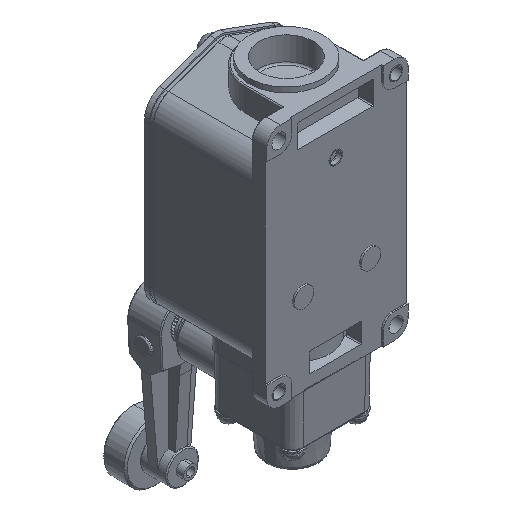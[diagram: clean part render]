
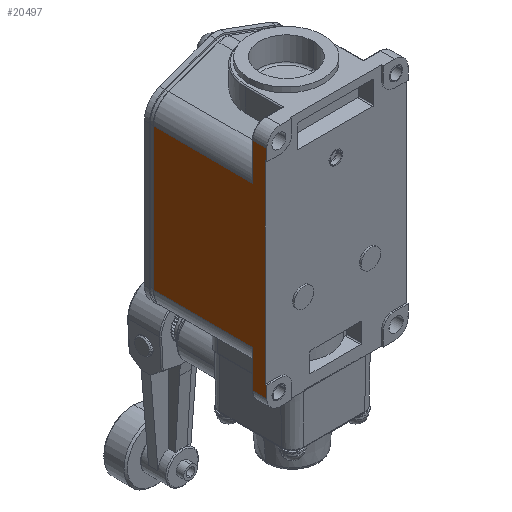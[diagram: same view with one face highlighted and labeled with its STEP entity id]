
A CAD part, isometric view. The second image highlights one B-rep face of the part: STEP entity #20497.
In plain terms, the highlighted planar face has unit normal (-1, 0, 0).
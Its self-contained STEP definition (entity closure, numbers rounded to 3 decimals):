
#5327=DIRECTION('',(0.,1.,0.));
#5328=VECTOR('',#5327,0.5);
#5329=CARTESIAN_POINT('',(0.,0.,-9.));
#5330=LINE('',#5329,#5328);
#5331=DIRECTION('',(0.,0.,-1.));
#5332=VECTOR('',#5331,57.8);
#5333=CARTESIAN_POINT('',(0.,0.5,-9.));
#5334=LINE('',#5333,#5332);
#5335=DIRECTION('',(0.,0.,-1.));
#5336=VECTOR('',#5335,11.16);
#5337=CARTESIAN_POINT('',(0.,4.2,-59.14));
#5338=LINE('',#5337,#5336);
#5518=DIRECTION('',(0.,0.,-1.));
#5519=VECTOR('',#5518,42.479);
#5520=CARTESIAN_POINT('',(0.,34.,-16.66));
#5521=LINE('',#5520,#5519);
#5755=DIRECTION('',(0.,0.,-1.));
#5756=VECTOR('',#5755,11.16);
#5757=CARTESIAN_POINT('',(0.,4.2,-5.5));
#5758=LINE('',#5757,#5756);
#5766=DIRECTION('',(0.,1.,0.));
#5767=VECTOR('',#5766,29.8);
#5768=CARTESIAN_POINT('',(0.,4.2,-16.66));
#5769=LINE('',#5768,#5767);
#5882=DIRECTION('',(0.,0.,1.));
#5883=VECTOR('',#5882,3.5);
#5884=CARTESIAN_POINT('',(0.,0.,-9.));
#5885=LINE('',#5884,#5883);
#5906=DIRECTION('',(0.,1.,0.));
#5907=VECTOR('',#5906,4.2);
#5908=CARTESIAN_POINT('',(0.,0.,-5.5));
#5909=LINE('',#5908,#5907);
#6064=DIRECTION('',(0.,-1.,0.));
#6065=VECTOR('',#6064,29.8);
#6066=CARTESIAN_POINT('',(0.,34.,-59.14));
#6067=LINE('',#6066,#6065);
#7329=DIRECTION('',(0.,0.,1.));
#7330=VECTOR('',#7329,3.5);
#7331=CARTESIAN_POINT('',(0.,0.,-70.3));
#7332=LINE('',#7331,#7330);
#7365=DIRECTION('',(0.,1.,0.));
#7366=VECTOR('',#7365,0.5);
#7367=CARTESIAN_POINT('',(0.,0.,-66.8));
#7368=LINE('',#7367,#7366);
#7390=DIRECTION('',(0.,-1.,0.));
#7391=VECTOR('',#7390,4.2);
#7392=CARTESIAN_POINT('',(0.,4.2,-70.3));
#7393=LINE('',#7392,#7391);
#9314=CARTESIAN_POINT('',(0.,0.5,-9.));
#9316=VERTEX_POINT('',#9314);
#9343=CARTESIAN_POINT('',(0.,0.5,-66.8));
#9344=VERTEX_POINT('',#9343);
#9389=CARTESIAN_POINT('',(0.,0.,-9.));
#9390=VERTEX_POINT('',#9389);
#9391=CARTESIAN_POINT('',(0.,4.2,-59.14));
#9392=CARTESIAN_POINT('',(0.,4.2,-70.3));
#9393=VERTEX_POINT('',#9391);
#9394=VERTEX_POINT('',#9392);
#9395=CARTESIAN_POINT('',(0.,4.2,-5.5));
#9396=CARTESIAN_POINT('',(0.,4.2,-16.66));
#9397=VERTEX_POINT('',#9395);
#9398=VERTEX_POINT('',#9396);
#9399=CARTESIAN_POINT('',(0.,0.,-5.5));
#9400=VERTEX_POINT('',#9399);
#9401=CARTESIAN_POINT('',(0.,0.,-66.8));
#9402=VERTEX_POINT('',#9401);
#9488=CARTESIAN_POINT('',(0.,0.,-70.3));
#9489=VERTEX_POINT('',#9488);
#9566=CARTESIAN_POINT('',(0.,34.,-16.66));
#9567=VERTEX_POINT('',#9566);
#9568=CARTESIAN_POINT('',(0.,34.,-59.14));
#9569=VERTEX_POINT('',#9568);
#20468=CARTESIAN_POINT('',(0.,17.,-37.9));
#20469=DIRECTION('',(1.,0.,0.));
#20470=DIRECTION('',(0.,0.,1.));
#20471=AXIS2_PLACEMENT_3D('',#20468,#20469,#20470);
#20472=PLANE('',#20471);
#20474=ORIENTED_EDGE('',*,*,#20473,.F.);
#20476=ORIENTED_EDGE('',*,*,#20475,.F.);
#20478=ORIENTED_EDGE('',*,*,#20477,.F.);
#20480=ORIENTED_EDGE('',*,*,#20479,.F.);
#20482=ORIENTED_EDGE('',*,*,#20481,.F.);
#20484=ORIENTED_EDGE('',*,*,#20483,.F.);
#20486=ORIENTED_EDGE('',*,*,#20485,.F.);
#20487=ORIENTED_EDGE('',*,*,#20452,.T.);
#20488=ORIENTED_EDGE('',*,*,#20380,.T.);
#20490=ORIENTED_EDGE('',*,*,#20489,.F.);
#20492=ORIENTED_EDGE('',*,*,#20491,.F.);
#20494=ORIENTED_EDGE('',*,*,#20493,.F.);
#20495=EDGE_LOOP('',(#20474,#20476,#20478,#20480,#20482,#20484,#20486,#20487,
#20488,#20490,#20492,#20494));
#20496=FACE_OUTER_BOUND('',#20495,.F.);
#20497=ADVANCED_FACE('',(#20496),#20472,.F.);
#20380=EDGE_CURVE('',#9316,#9344,#5334,.T.);
#20452=EDGE_CURVE('',#9390,#9316,#5330,.T.);
#20473=EDGE_CURVE('',#9393,#9394,#5338,.T.);
#20475=EDGE_CURVE('',#9569,#9393,#6067,.T.);
#20477=EDGE_CURVE('',#9567,#9569,#5521,.T.);
#20479=EDGE_CURVE('',#9398,#9567,#5769,.T.);
#20481=EDGE_CURVE('',#9397,#9398,#5758,.T.);
#20483=EDGE_CURVE('',#9400,#9397,#5909,.T.);
#20485=EDGE_CURVE('',#9390,#9400,#5885,.T.);
#20489=EDGE_CURVE('',#9402,#9344,#7368,.T.);
#20491=EDGE_CURVE('',#9489,#9402,#7332,.T.);
#20493=EDGE_CURVE('',#9394,#9489,#7393,.T.);
